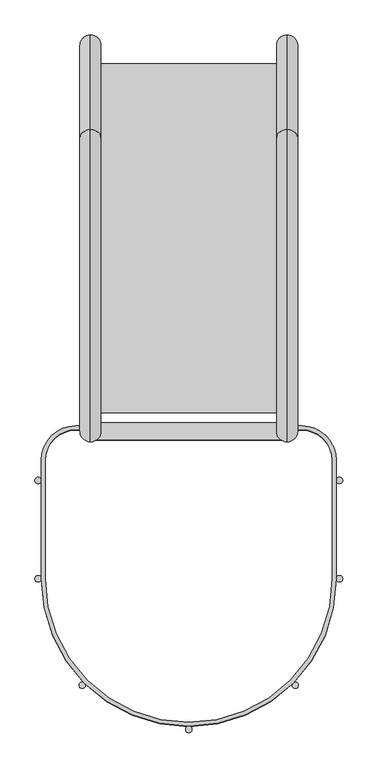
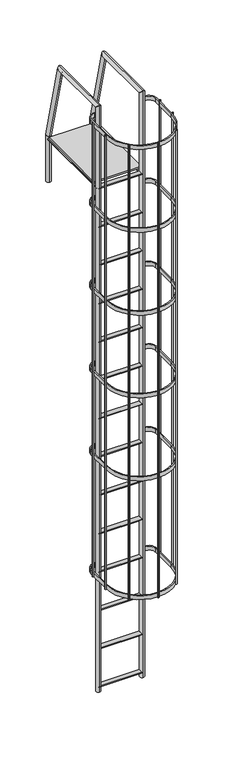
"""IFC4 building model written with IfcOpenShell, lengths in millimetres: proxy geometry, 営_タラップ(屋上・背カゴ付) : タラップ(屋上・背カゴ付)."""

import ifcopenshell
import ifcopenshell.guid

model = None  # the IFC model being written
_history = None  # IfcOwnerHistory: only IFC2X3 demands one
_inside = {}  # id of a spatial element -> (the spatial element, [elements in it])
_under = {}  # id of a project, library or spatial element -> (it, [spatial elements below it])
_declared = {}  # id of a project -> (the project, [libraries it declares])
_typed = {}  # id of a type object -> (the type object, [elements of that type])
_made_of = {}  # id of a material, layer set ... -> (it, [elements and type objects made of it])


def new_model(schema):
    """Start an empty IFC model of exactly this schema.

    Asked for "IFC4X3", IfcOpenShell would pick the latest addendum, in which some entities
    have other attributes; the version numbers below select the first issue.
    IFC2X3 requires an IfcOwnerHistory on every rooted entity: one is made here for all.
    """
    global model, _history
    if schema == "IFC4X3":
        model = ifcopenshell.file(schema_version=(4, 3, 0, 0))
    else:
        model = ifcopenshell.file(schema=schema)
    _inside.clear()
    _under.clear()
    _declared.clear()
    _typed.clear()
    _made_of.clear()
    _history = None
    if model.schema == "IFC2X3":
        org = make("IfcOrganization", Name="unknown")
        user = make(
            "IfcPersonAndOrganization",
            ThePerson=make("IfcPerson", FamilyName="unknown"),
            TheOrganization=org,
        )
        app = make(
            "IfcApplication",
            ApplicationDeveloper=org,
            Version="unknown",
            ApplicationFullName="unknown",
            ApplicationIdentifier="unknown",
        )
        _history = make(
            "IfcOwnerHistory",
            OwningUser=user,
            OwningApplication=app,
            ChangeAction="ADDED",
            CreationDate=0,
        )
    return model


def make(cls, **values):
    """One entity of the class cls with the attributes given. An attribute that is None is left unset."""
    return model.create_entity(
        cls, **{name: value for name, value in values.items() if value is not None}
    )


def rooted(cls, **values):
    """An entity with a GlobalId (a new one), such as an element, a storey or a relation."""
    return make(cls, GlobalId=ifcopenshell.guid.new(), OwnerHistory=_history, **values)


def si_unit(unit_type, name, prefix=None):
    """IfcSIUnit, for example si_unit("LENGTHUNIT", "METRE", prefix="MILLI")."""
    return make("IfcSIUnit", UnitType=unit_type, Prefix=prefix, Name=name)


def assignment(units):
    """IfcUnitAssignment: the units of a project."""
    return None if units is None else make("IfcUnitAssignment", Units=units)


def point(xyz):
    """IfcCartesianPoint."""
    return None if xyz is None else make("IfcCartesianPoint", Coordinates=xyz)


def direction(xyz):
    """IfcDirection."""
    return None if xyz is None else make("IfcDirection", DirectionRatios=xyz)


def frame(location, z_axis=None, x_axis=None):
    """IfcAxis2Placement3D, a coordinate frame: its origin and axes. An axis left out is left unset."""
    return make(
        "IfcAxis2Placement3D",
        Location=point(location),
        Axis=direction(z_axis),
        RefDirection=direction(x_axis),
    )


def frame_2d(location, x_axis=None):
    """IfcAxis2Placement2D, a coordinate frame in the plane: its origin and x axis."""
    return make(
        "IfcAxis2Placement2D", Location=point(location), RefDirection=direction(x_axis)
    )


def origin():
    """The frame at (0, 0, 0) with its axes left unset."""
    return frame((0.0, 0.0, 0.0))


def place(relative_to, where):
    """IfcLocalPlacement: puts the frame where relative to a parent placement (None: the world)."""
    return make(
        "IfcLocalPlacement", PlacementRelTo=relative_to, RelativePlacement=where
    )


def context(
    kind, dimensions, precision=None, world=None, true_north=None, identifier=None
):
    """IfcGeometricRepresentationContext, for example the 3D "Model" context."""
    return make(
        "IfcGeometricRepresentationContext",
        ContextIdentifier=identifier,
        ContextType=kind,
        CoordinateSpaceDimension=dimensions,
        Precision=precision,
        WorldCoordinateSystem=world,
        TrueNorth=true_north,
    )


def project(units=None, contexts=None):
    """IfcProject with its units and contexts."""
    return rooted(
        "IfcProject",
        Name="project",
        RepresentationContexts=contexts,
        UnitsInContext=assignment(units),
    )


def spatial(cls, under=None, at=None, **own):
    """A site, building, storey or space (cls), placed at a placement, below another one or the project."""
    s = rooted(cls, ObjectPlacement=at, **own)
    if under is not None:
        _under.setdefault(under.id(), (under, []))[1].append(s)
    return s


def polyline(points):
    """IfcPolyline through the points."""
    return make("IfcPolyline", Points=[point(p) for p in points])


def circle_curve(where, radius):
    """IfcCircle in the frame where."""
    return make("IfcCircle", Position=where, Radius=radius)


def ellipse_curve(where, semi_axis1, semi_axis2):
    """IfcEllipse in the frame where."""
    return make(
        "IfcEllipse", Position=where, SemiAxis1=semi_axis1, SemiAxis2=semi_axis2
    )


def trimmed(basis, trim1, trim2, sense, master):
    """IfcTrimmedCurve: the piece of a basis curve between two trims."""
    return make(
        "IfcTrimmedCurve",
        BasisCurve=basis,
        Trim1=trim1,
        Trim2=trim2,
        SenseAgreement=sense,
        MasterRepresentation=master,
    )


def segment(curve, same_sense, transition):
    """IfcCompositeCurveSegment."""
    return make(
        "IfcCompositeCurveSegment",
        Transition=transition,
        SameSense=same_sense,
        ParentCurve=curve,
    )


def composite_curve(segments, self_intersect=None):
    """IfcCompositeCurve: segments joined end to end."""
    return make("IfcCompositeCurve", Segments=segments, SelfIntersect=self_intersect)


def outline(outer, holes=None, kind="AREA"):
    """IfcArbitraryClosedProfileDef: a profile drawn as a closed curve; with holes, ...WithVoids."""
    if holes is None:
        return make("IfcArbitraryClosedProfileDef", ProfileType=kind, OuterCurve=outer)
    return make(
        "IfcArbitraryProfileDefWithVoids",
        ProfileType=kind,
        OuterCurve=outer,
        InnerCurves=holes,
    )


def extrude(swept, where, along, depth):
    """IfcExtrudedAreaSolid: the profile swept, set in the frame where, extruded along a direction by depth."""
    return make(
        "IfcExtrudedAreaSolid",
        SweptArea=swept,
        Position=where,
        ExtrudedDirection=direction(along),
        Depth=depth,
    )


def shape(context_of_items, identifier, shape_type, items):
    """IfcShapeRepresentation: the items that make up one representation, for example the "Body"."""
    return make(
        "IfcShapeRepresentation",
        ContextOfItems=context_of_items,
        RepresentationIdentifier=identifier,
        RepresentationType=shape_type,
        Items=items,
    )


def source(mapping_origin, context_of_items, identifier, shape_type, items):
    """IfcRepresentationMap: a shape defined once, which mapped items show again and again."""
    return make(
        "IfcRepresentationMap",
        MappingOrigin=mapping_origin,
        MappedRepresentation=shape(context_of_items, identifier, shape_type, items),
    )


def transform(
    local_origin,
    x_axis=None,
    y_axis=None,
    z_axis=None,
    scale=None,
    scale2=None,
    scale3=None,
    uniform=True,
):
    """IfcCartesianTransformationOperator3D, or its non-uniform kind. x_axis, y_axis, z_axis: its Axis1, 2, 3."""
    if uniform:
        return make(
            "IfcCartesianTransformationOperator3D",
            Axis1=direction(x_axis),
            Axis2=direction(y_axis),
            LocalOrigin=point(local_origin),
            Scale=scale,
            Axis3=direction(z_axis),
        )
    return make(
        "IfcCartesianTransformationOperator3DnonUniform",
        Axis1=direction(x_axis),
        Axis2=direction(y_axis),
        LocalOrigin=point(local_origin),
        Scale=scale,
        Axis3=direction(z_axis),
        Scale2=scale2,
        Scale3=scale3,
    )


def mapped(mapping_source, mapping_target):
    """IfcMappedItem: shows the shape of a source again, moved by a transform."""
    return make(
        "IfcMappedItem", MappingSource=mapping_source, MappingTarget=mapping_target
    )


def made_of(thing, what):
    """Note that an element or type object is made of a material, layer set ...; save() writes the relation."""
    if what is not None:
        _made_of.setdefault(what.id(), (what, []))[1].append(thing)
    return thing


def element(
    cls,
    number,
    at=None,
    inside=None,
    cuts=None,
    type_object=None,
    material=None,
    context=None,
    identifier="Body",
    shape_type=None,
    held_by="IfcProductDefinitionShape",
    body=None,
    shapes=None,
    **own,
):
    """One element of the class cls, such as IfcWall. Its Tag is "e" and its number.

    at: its placement. inside: the storey or other place that contains it. cuts: it is an
    opening in that element (IfcRelVoidsElement). A single representation is given by context,
    identifier, shape_type and body (its items); several are given by shapes. held_by: the class
    of the entity that holds the representations. save() writes the other relations.
    """
    e = rooted(cls, Tag="e%d" % number, ObjectPlacement=at, **own)
    if body is not None:
        shapes = [shape(context, identifier, shape_type, body)]
    if shapes is not None:
        e.Representation = make(held_by, Representations=shapes)
    if inside is not None:
        _inside.setdefault(inside.id(), (inside, []))[1].append(e)
    if cuts is not None:
        rooted(
            "IfcRelVoidsElement", RelatingBuildingElement=cuts, RelatedOpeningElement=e
        )
    if type_object is not None:
        _typed.setdefault(type_object.id(), (type_object, []))[1].append(e)
    return made_of(e, material)


def aggregate(whole, parts):
    """IfcRelAggregates: a whole, such as a stair, and the parts it consists of."""
    return rooted("IfcRelAggregates", RelatingObject=whole, RelatedObjects=parts)


def save(model, path):
    """Write the relations noted so far, then the file.

    IfcRelAggregates (storeys below a building ...), IfcRelContainedInSpatialStructure (elements
    in a storey), IfcRelDefinesByType, IfcRelAssociatesMaterial and IfcRelDeclares: one each for
    every whole, place, type object, material and project.
    """
    for whole, parts in _under.values():
        aggregate(whole, parts)
    for where, things in _inside.values():
        rooted(
            "IfcRelContainedInSpatialStructure",
            RelatedElements=things,
            RelatingStructure=where,
        )
    for kind, things in _typed.values():
        rooted("IfcRelDefinesByType", RelatedObjects=things, RelatingType=kind)
    for what, things in _made_of.values():
        rooted("IfcRelAssociatesMaterial", RelatedObjects=things, RelatingMaterial=what)
    for by, libraries in _declared.values():
        rooted("IfcRelDeclares", RelatingContext=by, RelatedDefinitions=libraries)
    model.write(path)


def plane_surface(at):
    """IfcPlane: the flat surface through the origin of the frame at, square to its z axis."""
    return make("IfcPlane", Position=at)


def cylinder_surface(at, radius):
    """IfcCylindricalSurface: all points at the distance radius from the z axis of the frame at."""
    return make("IfcCylindricalSurface", Position=at, Radius=radius)


def advanced_brep(points, edges, surfaces, faces):
    """IfcAdvancedBrep: a solid bounded by faces that lie on surfaces and meet in shared edges.

    An edge is (start, end): straight between two places in points (the first is 0);
    or (start, end, curve); or (start, end, curve, False) where it runs against its curve.
    A face is (place in surfaces, loops), or (place, loops, False) where it looks against
    its surface's normal. A loop lists edges by number (the first is 1), with a minus sign
    where the edge is run from its end to its start. The first loop is the outer one.
    """
    corners = [point(p) for p in points]
    vertices = [make("IfcVertexPoint", VertexGeometry=c) for c in corners]
    made = []
    for start, end, *more in edges:
        made.append(
            make(
                "IfcEdgeCurve",
                EdgeStart=vertices[start],
                EdgeEnd=vertices[end],
                EdgeGeometry=more[0] if more else make("IfcPolyline", Points=[corners[start], corners[end]]),
                SameSense=more[1] if len(more) > 1 else True,
            )
        )
    hull = []
    for where, loops, *sense in faces:
        bounds = []
        for j, loop in enumerate(loops):
            ring = [make("IfcOrientedEdge", EdgeElement=made[abs(k) - 1], Orientation=k > 0) for k in loop]
            bounds.append(
                make(
                    "IfcFaceOuterBound" if j == 0 else "IfcFaceBound",
                    Bound=make("IfcEdgeLoop", EdgeList=ring),
                    Orientation=True,
                )
            )
        hull.append(make("IfcAdvancedFace", Bounds=bounds, FaceSurface=surfaces[where], SameSense=sense[0] if sense else True))
    return make("IfcAdvancedBrep", Outer=make("IfcClosedShell", CfsFaces=hull))


def generic_models_01cd3eca(model_context):
    return source(origin(), model_context, "Body", "SolidModel", [
        extrude(outline(composite_curve([segment(trimmed(circle_curve(frame_2d((-183.0, 396.4615385)), 17.0), [point((-200.0, 396.4615385))], [point((-166.0, 396.4615385))], False, "CARTESIAN"), True, "CONTINUOUS"), segment(trimmed(circle_curve(frame_2d((-183.0, 396.4615385)), 17.0), [point((-166.0, 396.4615385))], [point((-200.0, 396.4615385))], False, "CARTESIAN"), True, "CONTINUOUS")], self_intersect=False)), frame((-200.0, 0.0, 0.0), z_axis=(1.0, 0.0, 0.0), x_axis=(0.0, 1.0, 0.0)), (0.0, 0.0, 1.0), 400.0),
        extrude(outline(composite_curve([segment(trimmed(circle_curve(frame_2d((-183.0, 25.9230769)), 17.0), [point((-200.0, 25.9230769))], [point((-166.0, 25.9230769))], False, "CARTESIAN"), True, "CONTINUOUS"), segment(trimmed(circle_curve(frame_2d((-183.0, 25.9230769)), 17.0), [point((-166.0, 25.9230769))], [point((-200.0, 25.9230769))], False, "CARTESIAN"), True, "CONTINUOUS")], self_intersect=False)), frame((-200.0, 0.0, 0.0), z_axis=(1.0, 0.0, 0.0), x_axis=(0.0, 1.0, 0.0)), (0.0, 0.0, 1.0), 400.0),
        extrude(outline(composite_curve([segment(trimmed(circle_curve(frame_2d((-183.0, -344.6153846)), 17.0), [point((-200.0, -344.6153846))], [point((-166.0, -344.6153846))], False, "CARTESIAN"), True, "CONTINUOUS"), segment(trimmed(circle_curve(frame_2d((-183.0, -344.6153846)), 17.0), [point((-166.0, -344.6153846))], [point((-200.0, -344.6153846))], False, "CARTESIAN"), True, "CONTINUOUS")], self_intersect=False)), frame((-200.0, 0.0, 0.0), z_axis=(1.0, 0.0, 0.0), x_axis=(0.0, 1.0, 0.0)), (0.0, 0.0, 1.0), 400.0),
        extrude(outline(composite_curve([segment(trimmed(circle_curve(frame_2d((-183.0, -715.1538462)), 17.0), [point((-200.0, -715.1538462))], [point((-166.0, -715.1538462))], False, "CARTESIAN"), True, "CONTINUOUS"), segment(trimmed(circle_curve(frame_2d((-183.0, -715.1538462)), 17.0), [point((-166.0, -715.1538462))], [point((-200.0, -715.1538462))], False, "CARTESIAN"), True, "CONTINUOUS")], self_intersect=False)), frame((-200.0, 0.0, 0.0), z_axis=(1.0, 0.0, 0.0), x_axis=(0.0, 1.0, 0.0)), (0.0, 0.0, 1.0), 400.0),
        extrude(outline(composite_curve([segment(trimmed(circle_curve(frame_2d((-183.0, -1085.6923077)), 17.0), [point((-200.0, -1085.6923077))], [point((-166.0, -1085.6923077))], False, "CARTESIAN"), True, "CONTINUOUS"), segment(trimmed(circle_curve(frame_2d((-183.0, -1085.6923077)), 17.0), [point((-166.0, -1085.6923077))], [point((-200.0, -1085.6923077))], False, "CARTESIAN"), True, "CONTINUOUS")], self_intersect=False)), frame((-200.0, 0.0, 0.0), z_axis=(1.0, 0.0, 0.0), x_axis=(0.0, 1.0, 0.0)), (0.0, 0.0, 1.0), 400.0),
        extrude(outline(composite_curve([segment(trimmed(circle_curve(frame_2d((-183.0, -1456.2307692)), 17.0), [point((-200.0, -1456.2307692))], [point((-166.0, -1456.2307692))], False, "CARTESIAN"), True, "CONTINUOUS"), segment(trimmed(circle_curve(frame_2d((-183.0, -1456.2307692)), 17.0), [point((-166.0, -1456.2307692))], [point((-200.0, -1456.2307692))], False, "CARTESIAN"), True, "CONTINUOUS")], self_intersect=False)), frame((-200.0, 0.0, 0.0), z_axis=(1.0, 0.0, 0.0), x_axis=(0.0, 1.0, 0.0)), (0.0, 0.0, 1.0), 400.0),
        extrude(outline(composite_curve([segment(trimmed(circle_curve(frame_2d((-183.0, -1826.7692308)), 17.0), [point((-200.0, -1826.7692308))], [point((-166.0, -1826.7692308))], False, "CARTESIAN"), True, "CONTINUOUS"), segment(trimmed(circle_curve(frame_2d((-183.0, -1826.7692308)), 17.0), [point((-166.0, -1826.7692308))], [point((-200.0, -1826.7692308))], False, "CARTESIAN"), True, "CONTINUOUS")], self_intersect=False)), frame((-200.0, 0.0, 0.0), z_axis=(1.0, 0.0, 0.0), x_axis=(0.0, 1.0, 0.0)), (0.0, 0.0, 1.0), 400.0),
        extrude(outline(composite_curve([segment(trimmed(circle_curve(frame_2d((-183.0, -2197.3076923)), 17.0), [point((-200.0, -2197.3076923))], [point((-166.0, -2197.3076923))], False, "CARTESIAN"), True, "CONTINUOUS"), segment(trimmed(circle_curve(frame_2d((-183.0, -2197.3076923)), 17.0), [point((-166.0, -2197.3076923))], [point((-200.0, -2197.3076923))], False, "CARTESIAN"), True, "CONTINUOUS")], self_intersect=False)), frame((-200.0, 0.0, 0.0), z_axis=(1.0, 0.0, 0.0), x_axis=(0.0, 1.0, 0.0)), (0.0, 0.0, 1.0), 400.0),
        extrude(outline(composite_curve([segment(trimmed(circle_curve(frame_2d((-183.0, -2567.8461538)), 17.0), [point((-200.0, -2567.8461538))], [point((-166.0, -2567.8461538))], False, "CARTESIAN"), True, "CONTINUOUS"), segment(trimmed(circle_curve(frame_2d((-183.0, -2567.8461538)), 17.0), [point((-166.0, -2567.8461538))], [point((-200.0, -2567.8461538))], False, "CARTESIAN"), True, "CONTINUOUS")], self_intersect=False)), frame((-200.0, 0.0, 0.0), z_axis=(1.0, 0.0, 0.0), x_axis=(0.0, 1.0, 0.0)), (0.0, 0.0, 1.0), 400.0),
        extrude(outline(composite_curve([segment(trimmed(circle_curve(frame_2d((-183.0, -2938.3846154)), 17.0), [point((-200.0, -2938.3846154))], [point((-166.0, -2938.3846154))], False, "CARTESIAN"), True, "CONTINUOUS"), segment(trimmed(circle_curve(frame_2d((-183.0, -2938.3846154)), 17.0), [point((-166.0, -2938.3846154))], [point((-200.0, -2938.3846154))], False, "CARTESIAN"), True, "CONTINUOUS")], self_intersect=False)), frame((-200.0, 0.0, 0.0), z_axis=(1.0, 0.0, 0.0), x_axis=(0.0, 1.0, 0.0)), (0.0, 0.0, 1.0), 400.0),
        extrude(outline(composite_curve([segment(trimmed(circle_curve(frame_2d((-183.0, -3308.9230769)), 17.0), [point((-200.0, -3308.9230769))], [point((-166.0, -3308.9230769))], False, "CARTESIAN"), True, "CONTINUOUS"), segment(trimmed(circle_curve(frame_2d((-183.0, -3308.9230769)), 17.0), [point((-166.0, -3308.9230769))], [point((-200.0, -3308.9230769))], False, "CARTESIAN"), True, "CONTINUOUS")], self_intersect=False)), frame((-200.0, 0.0, 0.0), z_axis=(1.0, 0.0, 0.0), x_axis=(0.0, 1.0, 0.0)), (0.0, 0.0, 1.0), 400.0),
        extrude(outline(composite_curve([segment(trimmed(circle_curve(frame_2d((-183.0, -3679.4615385)), 17.0), [point((-200.0, -3679.4615385))], [point((-166.0, -3679.4615385))], False, "CARTESIAN"), True, "CONTINUOUS"), segment(trimmed(circle_curve(frame_2d((-183.0, -3679.4615385)), 17.0), [point((-166.0, -3679.4615385))], [point((-200.0, -3679.4615385))], False, "CARTESIAN"), True, "CONTINUOUS")], self_intersect=False)), frame((-200.0, 0.0, 0.0), z_axis=(1.0, 0.0, 0.0), x_axis=(0.0, 1.0, 0.0)), (0.0, 0.0, 1.0), 400.0),
        extrude(outline(composite_curve([segment(trimmed(circle_curve(frame_2d((-183.0, 767.0)), 17.0), [point((-200.0, 767.0))], [point((-166.0, 767.0))], False, "CARTESIAN"), True, "CONTINUOUS"), segment(trimmed(circle_curve(frame_2d((-183.0, 767.0)), 17.0), [point((-166.0, 767.0))], [point((-200.0, 767.0))], False, "CARTESIAN"), True, "CONTINUOUS")], self_intersect=False)), frame((-200.0, 0.0, 0.0), z_axis=(1.0, 0.0, 0.0), x_axis=(0.0, 1.0, 0.0)), (0.0, 0.0, 1.0), 400.0),
        extrude(outline(composite_curve([segment(polyline([(-200.0, -172.0), (-200.0, -180.0), (-230.0, -180.0)]), True, "CONTINUOUS"), segment(trimmed(circle_curve(frame_2d((-230.0, -242.0)), 62.0), [point((-230.0, -180.0))], [point((-292.0, -242.0))], True, "CARTESIAN"), True, "CONTINUOUS"), segment(polyline([(-292.0, -242.0), (-292.0, -483.0)]), True, "CONTINUOUS"), segment(trimmed(circle_curve(frame_2d((0.0, -483.0)), 292.0), [point((-292.0, -483.0))], [point((0.0, -775.0))], True, "CARTESIAN"), True, "CONTINUOUS"), segment(trimmed(circle_curve(frame_2d((0.0, -483.0)), 292.0), [point((0.0, -775.0))], [point((292.0, -483.0))], True, "CARTESIAN"), True, "CONTINUOUS"), segment(polyline([(292.0, -483.0), (292.0, -242.0)]), True, "CONTINUOUS"), segment(trimmed(circle_curve(frame_2d((230.0, -242.0)), 62.0), [point((292.0, -242.0))], [point((230.0, -180.0))], True, "CARTESIAN"), True, "CONTINUOUS"), segment(polyline([(230.0, -180.0), (200.0, -180.0), (200.0, -172.0), (230.0, -172.0)]), True, "CONTINUOUS"), segment(trimmed(circle_curve(frame_2d((230.0, -242.0)), 70.0), [point((230.0, -172.0))], [point((300.0, -242.0))], False, "CARTESIAN"), True, "CONTINUOUS"), segment(polyline([(300.0, -242.0), (300.0, -483.0)]), True, "CONTINUOUS"), segment(trimmed(circle_curve(frame_2d((0.0, -483.0)), 300.0), [point((300.0, -483.0))], [point((0.0, -783.0))], False, "CARTESIAN"), True, "CONTINUOUS"), segment(trimmed(circle_curve(frame_2d((0.0, -483.0)), 300.0), [point((0.0, -783.0))], [point((-300.0, -483.0))], False, "CARTESIAN"), True, "CONTINUOUS"), segment(polyline([(-300.0, -483.0), (-300.0, -242.0)]), True, "CONTINUOUS"), segment(trimmed(circle_curve(frame_2d((-230.0, -242.0)), 70.0), [point((-300.0, -242.0))], [point((-230.0, -172.0))], False, "CARTESIAN"), True, "CONTINUOUS"), segment(polyline([(-230.0, -172.0), (-200.0, -172.0)]), True, "CONTINUOUS")], self_intersect=False)), frame((0.0, 0.0, -1751.0), z_axis=(0.0, 0.0, 1.0), x_axis=(1.0, 0.0, 0.0)), (0.0, 0.0, 1.0), 38.0),
        extrude(outline(composite_curve([segment(polyline([(-200.0, -172.0), (-200.0, -180.0), (-230.0, -180.0)]), True, "CONTINUOUS"), segment(trimmed(circle_curve(frame_2d((-230.0, -242.0)), 62.0), [point((-230.0, -180.0))], [point((-292.0, -242.0))], True, "CARTESIAN"), True, "CONTINUOUS"), segment(polyline([(-292.0, -242.0), (-292.0, -483.0)]), True, "CONTINUOUS"), segment(trimmed(circle_curve(frame_2d((0.0, -483.0)), 292.0), [point((-292.0, -483.0))], [point((0.0, -775.0))], True, "CARTESIAN"), True, "CONTINUOUS"), segment(trimmed(circle_curve(frame_2d((0.0, -483.0)), 292.0), [point((0.0, -775.0))], [point((292.0, -483.0))], True, "CARTESIAN"), True, "CONTINUOUS"), segment(polyline([(292.0, -483.0), (292.0, -242.0)]), True, "CONTINUOUS"), segment(trimmed(circle_curve(frame_2d((230.0, -242.0)), 62.0), [point((292.0, -242.0))], [point((230.0, -180.0))], True, "CARTESIAN"), True, "CONTINUOUS"), segment(polyline([(230.0, -180.0), (200.0, -180.0), (200.0, -172.0), (230.0, -172.0)]), True, "CONTINUOUS"), segment(trimmed(circle_curve(frame_2d((230.0, -242.0)), 70.0), [point((230.0, -172.0))], [point((300.0, -242.0))], False, "CARTESIAN"), True, "CONTINUOUS"), segment(polyline([(300.0, -242.0), (300.0, -483.0)]), True, "CONTINUOUS"), segment(trimmed(circle_curve(frame_2d((0.0, -483.0)), 300.0), [point((300.0, -483.0))], [point((0.0, -783.0))], False, "CARTESIAN"), True, "CONTINUOUS"), segment(trimmed(circle_curve(frame_2d((0.0, -483.0)), 300.0), [point((0.0, -783.0))], [point((-300.0, -483.0))], False, "CARTESIAN"), True, "CONTINUOUS"), segment(polyline([(-300.0, -483.0), (-300.0, -242.0)]), True, "CONTINUOUS"), segment(trimmed(circle_curve(frame_2d((-230.0, -242.0)), 70.0), [point((-300.0, -242.0))], [point((-230.0, -172.0))], False, "CARTESIAN"), True, "CONTINUOUS"), segment(polyline([(-230.0, -172.0), (-200.0, -172.0)]), True, "CONTINUOUS")], self_intersect=False)), frame((0.0, 0.0, -951.0), z_axis=(0.0, 0.0, 1.0), x_axis=(1.0, 0.0, 0.0)), (0.0, 0.0, 1.0), 38.0),
        extrude(outline(composite_curve([segment(polyline([(-200.0, -172.0), (-200.0, -180.0), (-230.0, -180.0)]), True, "CONTINUOUS"), segment(trimmed(circle_curve(frame_2d((-230.0, -242.0)), 62.0), [point((-230.0, -180.0))], [point((-292.0, -242.0))], True, "CARTESIAN"), True, "CONTINUOUS"), segment(polyline([(-292.0, -242.0), (-292.0, -483.0)]), True, "CONTINUOUS"), segment(trimmed(circle_curve(frame_2d((0.0, -483.0)), 292.0), [point((-292.0, -483.0))], [point((0.0, -775.0))], True, "CARTESIAN"), True, "CONTINUOUS"), segment(trimmed(circle_curve(frame_2d((0.0, -483.0)), 292.0), [point((0.0, -775.0))], [point((292.0, -483.0))], True, "CARTESIAN"), True, "CONTINUOUS"), segment(polyline([(292.0, -483.0), (292.0, -242.0)]), True, "CONTINUOUS"), segment(trimmed(circle_curve(frame_2d((230.0, -242.0)), 62.0), [point((292.0, -242.0))], [point((230.0, -180.0))], True, "CARTESIAN"), True, "CONTINUOUS"), segment(polyline([(230.0, -180.0), (200.0, -180.0), (200.0, -172.0), (230.0, -172.0)]), True, "CONTINUOUS"), segment(trimmed(circle_curve(frame_2d((230.0, -242.0)), 70.0), [point((230.0, -172.0))], [point((300.0, -242.0))], False, "CARTESIAN"), True, "CONTINUOUS"), segment(polyline([(300.0, -242.0), (300.0, -483.0)]), True, "CONTINUOUS"), segment(trimmed(circle_curve(frame_2d((0.0, -483.0)), 300.0), [point((300.0, -483.0))], [point((0.0, -783.0))], False, "CARTESIAN"), True, "CONTINUOUS"), segment(trimmed(circle_curve(frame_2d((0.0, -483.0)), 300.0), [point((0.0, -783.0))], [point((-300.0, -483.0))], False, "CARTESIAN"), True, "CONTINUOUS"), segment(polyline([(-300.0, -483.0), (-300.0, -242.0)]), True, "CONTINUOUS"), segment(trimmed(circle_curve(frame_2d((-230.0, -242.0)), 70.0), [point((-300.0, -242.0))], [point((-230.0, -172.0))], False, "CARTESIAN"), True, "CONTINUOUS"), segment(polyline([(-230.0, -172.0), (-200.0, -172.0)]), True, "CONTINUOUS")], self_intersect=False)), frame((0.0, 0.0, -151.0), z_axis=(0.0, 0.0, 1.0), x_axis=(1.0, 0.0, 0.0)), (0.0, 0.0, 1.0), 38.0),
        extrude(outline(composite_curve([segment(polyline([(-200.0, -172.0), (-200.0, -180.0), (-230.0, -180.0)]), True, "CONTINUOUS"), segment(trimmed(circle_curve(frame_2d((-230.0, -242.0)), 62.0), [point((-230.0, -180.0))], [point((-292.0, -242.0))], True, "CARTESIAN"), True, "CONTINUOUS"), segment(polyline([(-292.0, -242.0), (-292.0, -483.0)]), True, "CONTINUOUS"), segment(trimmed(circle_curve(frame_2d((0.0, -483.0)), 292.0), [point((-292.0, -483.0))], [point((0.0, -775.0))], True, "CARTESIAN"), True, "CONTINUOUS"), segment(trimmed(circle_curve(frame_2d((0.0, -483.0)), 292.0), [point((0.0, -775.0))], [point((292.0, -483.0))], True, "CARTESIAN"), True, "CONTINUOUS"), segment(polyline([(292.0, -483.0), (292.0, -242.0)]), True, "CONTINUOUS"), segment(trimmed(circle_curve(frame_2d((230.0, -242.0)), 62.0), [point((292.0, -242.0))], [point((230.0, -180.0))], True, "CARTESIAN"), True, "CONTINUOUS"), segment(polyline([(230.0, -180.0), (200.0, -180.0), (200.0, -172.0), (230.0, -172.0)]), True, "CONTINUOUS"), segment(trimmed(circle_curve(frame_2d((230.0, -242.0)), 70.0), [point((230.0, -172.0))], [point((300.0, -242.0))], False, "CARTESIAN"), True, "CONTINUOUS"), segment(polyline([(300.0, -242.0), (300.0, -483.0)]), True, "CONTINUOUS"), segment(trimmed(circle_curve(frame_2d((0.0, -483.0)), 300.0), [point((300.0, -483.0))], [point((0.0, -783.0))], False, "CARTESIAN"), True, "CONTINUOUS"), segment(trimmed(circle_curve(frame_2d((0.0, -483.0)), 300.0), [point((0.0, -783.0))], [point((-300.0, -483.0))], False, "CARTESIAN"), True, "CONTINUOUS"), segment(polyline([(-300.0, -483.0), (-300.0, -242.0)]), True, "CONTINUOUS"), segment(trimmed(circle_curve(frame_2d((-230.0, -242.0)), 70.0), [point((-300.0, -242.0))], [point((-230.0, -172.0))], False, "CARTESIAN"), True, "CONTINUOUS"), segment(polyline([(-230.0, -172.0), (-200.0, -172.0)]), True, "CONTINUOUS")], self_intersect=False)), frame((0.0, 0.0, 649.0), z_axis=(0.0, 0.0, 1.0), x_axis=(1.0, 0.0, 0.0)), (0.0, 0.0, 1.0), 38.0),
        extrude(outline(composite_curve([segment(polyline([(-200.0, -172.0), (-200.0, -180.0), (-230.0, -180.0)]), True, "CONTINUOUS"), segment(trimmed(circle_curve(frame_2d((-230.0, -242.0)), 62.0), [point((-230.0, -180.0))], [point((-292.0, -242.0))], True, "CARTESIAN"), True, "CONTINUOUS"), segment(polyline([(-292.0, -242.0), (-292.0, -483.0)]), True, "CONTINUOUS"), segment(trimmed(circle_curve(frame_2d((0.0, -483.0)), 292.0), [point((-292.0, -483.0))], [point((0.0, -775.0))], True, "CARTESIAN"), True, "CONTINUOUS"), segment(trimmed(circle_curve(frame_2d((0.0, -483.0)), 292.0), [point((0.0, -775.0))], [point((292.0, -483.0))], True, "CARTESIAN"), True, "CONTINUOUS"), segment(polyline([(292.0, -483.0), (292.0, -242.0)]), True, "CONTINUOUS"), segment(trimmed(circle_curve(frame_2d((230.0, -242.0)), 62.0), [point((292.0, -242.0))], [point((230.0, -180.0))], True, "CARTESIAN"), True, "CONTINUOUS"), segment(polyline([(230.0, -180.0), (200.0, -180.0), (200.0, -172.0), (230.0, -172.0)]), True, "CONTINUOUS"), segment(trimmed(circle_curve(frame_2d((230.0, -242.0)), 70.0), [point((230.0, -172.0))], [point((300.0, -242.0))], False, "CARTESIAN"), True, "CONTINUOUS"), segment(polyline([(300.0, -242.0), (300.0, -483.0)]), True, "CONTINUOUS"), segment(trimmed(circle_curve(frame_2d((0.0, -483.0)), 300.0), [point((300.0, -483.0))], [point((0.0, -783.0))], False, "CARTESIAN"), True, "CONTINUOUS"), segment(trimmed(circle_curve(frame_2d((0.0, -483.0)), 300.0), [point((0.0, -783.0))], [point((-300.0, -483.0))], False, "CARTESIAN"), True, "CONTINUOUS"), segment(polyline([(-300.0, -483.0), (-300.0, -242.0)]), True, "CONTINUOUS"), segment(trimmed(circle_curve(frame_2d((-230.0, -242.0)), 70.0), [point((-300.0, -242.0))], [point((-230.0, -172.0))], False, "CARTESIAN"), True, "CONTINUOUS"), segment(polyline([(-230.0, -172.0), (-200.0, -172.0)]), True, "CONTINUOUS")], self_intersect=False)), frame((0.0, 0.0, -2900.0), z_axis=(0.0, 0.0, 1.0), x_axis=(1.0, 0.0, 0.0)), (0.0, 0.0, 1.0), 38.0),
        extrude(outline(composite_curve([segment(polyline([(-200.0, -172.0), (-200.0, -180.0), (-230.0, -180.0)]), True, "CONTINUOUS"), segment(trimmed(circle_curve(frame_2d((-230.0, -242.0)), 62.0), [point((-230.0, -180.0))], [point((-292.0, -242.0))], True, "CARTESIAN"), True, "CONTINUOUS"), segment(polyline([(-292.0, -242.0), (-292.0, -483.0)]), True, "CONTINUOUS"), segment(trimmed(circle_curve(frame_2d((0.0, -483.0)), 292.0), [point((-292.0, -483.0))], [point((0.0, -775.0))], True, "CARTESIAN"), True, "CONTINUOUS"), segment(trimmed(circle_curve(frame_2d((0.0, -483.0)), 292.0), [point((0.0, -775.0))], [point((292.0, -483.0))], True, "CARTESIAN"), True, "CONTINUOUS"), segment(polyline([(292.0, -483.0), (292.0, -242.0)]), True, "CONTINUOUS"), segment(trimmed(circle_curve(frame_2d((230.0, -242.0)), 62.0), [point((292.0, -242.0))], [point((230.0, -180.0))], True, "CARTESIAN"), True, "CONTINUOUS"), segment(polyline([(230.0, -180.0), (200.0, -180.0), (200.0, -172.0), (230.0, -172.0)]), True, "CONTINUOUS"), segment(trimmed(circle_curve(frame_2d((230.0, -242.0)), 70.0), [point((230.0, -172.0))], [point((300.0, -242.0))], False, "CARTESIAN"), True, "CONTINUOUS"), segment(polyline([(300.0, -242.0), (300.0, -483.0)]), True, "CONTINUOUS"), segment(trimmed(circle_curve(frame_2d((0.0, -483.0)), 300.0), [point((300.0, -483.0))], [point((0.0, -783.0))], False, "CARTESIAN"), True, "CONTINUOUS"), segment(trimmed(circle_curve(frame_2d((0.0, -483.0)), 300.0), [point((0.0, -783.0))], [point((-300.0, -483.0))], False, "CARTESIAN"), True, "CONTINUOUS"), segment(polyline([(-300.0, -483.0), (-300.0, -242.0)]), True, "CONTINUOUS"), segment(trimmed(circle_curve(frame_2d((-230.0, -242.0)), 70.0), [point((-300.0, -242.0))], [point((-230.0, -172.0))], False, "CARTESIAN"), True, "CONTINUOUS"), segment(polyline([(-230.0, -172.0), (-200.0, -172.0)]), True, "CONTINUOUS")], self_intersect=False)), frame((0.0, 0.0, 1449.0), z_axis=(0.0, 0.0, 1.0), x_axis=(1.0, 0.0, 0.0)), (0.0, 0.0, 1.0), 38.0),
        extrude(outline(composite_curve([segment(trimmed(circle_curve(frame_2d((-306.5, -283.0)), 6.5), [point((-313.0, -283.0))], [point((-300.0, -283.0))], False, "CARTESIAN"), True, "CONTINUOUS"), segment(trimmed(circle_curve(frame_2d((-306.5, -283.0)), 6.5), [point((-300.0, -283.0))], [point((-313.0, -283.0))], False, "CARTESIAN"), True, "CONTINUOUS")], self_intersect=False)), frame((0.0, 0.0, -2900.0), z_axis=(0.0, 0.0, 1.0), x_axis=(1.0, 0.0, 0.0)), (0.0, 0.0, 1.0), 4387.0),
        extrude(outline(composite_curve([segment(trimmed(circle_curve(frame_2d((-306.5, -483.0)), 6.5), [point((-313.0, -483.0))], [point((-300.0, -483.0))], False, "CARTESIAN"), True, "CONTINUOUS"), segment(trimmed(circle_curve(frame_2d((-306.5, -483.0)), 6.5), [point((-300.0, -483.0))], [point((-313.0, -483.0))], False, "CARTESIAN"), True, "CONTINUOUS")], self_intersect=False)), frame((0.0, 0.0, -2900.0), z_axis=(0.0, 0.0, 1.0), x_axis=(1.0, 0.0, 0.0)), (0.0, 0.0, 1.0), 4387.0),
        extrude(outline(composite_curve([segment(trimmed(circle_curve(frame_2d((306.5, -283.0)), 6.5), [point((300.0, -283.0))], [point((313.0, -283.0))], False, "CARTESIAN"), True, "CONTINUOUS"), segment(trimmed(circle_curve(frame_2d((306.5, -283.0)), 6.5), [point((313.0, -283.0))], [point((300.0, -283.0))], False, "CARTESIAN"), True, "CONTINUOUS")], self_intersect=False)), frame((0.0, 0.0, -2900.0), z_axis=(0.0, 0.0, 1.0), x_axis=(1.0, 0.0, 0.0)), (0.0, 0.0, 1.0), 4387.0),
        extrude(outline(composite_curve([segment(trimmed(circle_curve(frame_2d((306.5, -483.0)), 6.5), [point((300.0, -483.0))], [point((313.0, -483.0))], False, "CARTESIAN"), True, "CONTINUOUS"), segment(trimmed(circle_curve(frame_2d((306.5, -483.0)), 6.5), [point((313.0, -483.0))], [point((300.0, -483.0))], False, "CARTESIAN"), True, "CONTINUOUS")], self_intersect=False)), frame((0.0, 0.0, -2900.0), z_axis=(0.0, 0.0, 1.0), x_axis=(1.0, 0.0, 0.0)), (0.0, 0.0, 1.0), 4387.0),
        extrude(outline(composite_curve([segment(trimmed(circle_curve(frame_2d((216.7282284, -699.7282284)), 6.5), [point((212.1320344, -695.1320344))], [point((221.3244225, -704.3244225))], False, "CARTESIAN"), True, "CONTINUOUS"), segment(trimmed(circle_curve(frame_2d((216.7282284, -699.7282284)), 6.5), [point((221.3244225, -704.3244225))], [point((212.1320344, -695.1320344))], False, "CARTESIAN"), True, "CONTINUOUS")], self_intersect=False)), frame((0.0, 0.0, -2900.0), z_axis=(0.0, 0.0, 1.0), x_axis=(1.0, 0.0, 0.0)), (0.0, 0.0, 1.0), 4387.0),
        extrude(outline(composite_curve([segment(trimmed(circle_curve(frame_2d((-216.7282284, -699.7282284)), 6.5), [point((-212.1320344, -695.1320344))], [point((-221.3244225, -704.3244225))], False, "CARTESIAN"), True, "CONTINUOUS"), segment(trimmed(circle_curve(frame_2d((-216.7282284, -699.7282284)), 6.5), [point((-221.3244225, -704.3244225))], [point((-212.1320344, -695.1320344))], False, "CARTESIAN"), True, "CONTINUOUS")], self_intersect=False)), frame((0.0, 0.0, -2900.0), z_axis=(0.0, 0.0, 1.0), x_axis=(1.0, 0.0, 0.0)), (0.0, 0.0, 1.0), 4387.0),
        extrude(outline(composite_curve([segment(trimmed(circle_curve(frame_2d((0.0, -789.5)), 6.5), [point((0.0, -783.0))], [point((0.0, -796.0))], False, "CARTESIAN"), True, "CONTINUOUS"), segment(trimmed(circle_curve(frame_2d((0.0, -789.5)), 6.5), [point((0.0, -796.0))], [point((0.0, -783.0))], False, "CARTESIAN"), True, "CONTINUOUS")], self_intersect=False)), frame((0.0, 0.0, -2900.0), z_axis=(0.0, 0.0, 1.0), x_axis=(1.0, 0.0, 0.0)), (0.0, 0.0, 1.0), 4387.0),
        extrude(outline(composite_curve([segment(trimmed(circle_curve(frame_2d((767.0, -200.0)), 17.0), [point((767.0, -183.0))], [point((767.0, -217.0))], False, "CARTESIAN"), True, "CONTINUOUS"), segment(trimmed(circle_curve(frame_2d((767.0, -200.0)), 17.0), [point((767.0, -217.0))], [point((767.0, -183.0))], False, "CARTESIAN"), True, "CONTINUOUS")], self_intersect=False)), frame((0.0, -183.0, 0.0), z_axis=(0.0, 1.0, 0.0), x_axis=(0.0, 0.0, 1.0)), (0.0, 0.0, 1.0), 785.0),
        extrude(outline(composite_curve([segment(trimmed(circle_curve(frame_2d((767.0, 200.0)), 17.0), [point((767.0, 217.0))], [point((767.0, 183.0))], False, "CARTESIAN"), True, "CONTINUOUS"), segment(trimmed(circle_curve(frame_2d((767.0, 200.0)), 17.0), [point((767.0, 183.0))], [point((767.0, 217.0))], False, "CARTESIAN"), True, "CONTINUOUS")], self_intersect=False)), frame((0.0, -183.0, 0.0), z_axis=(0.0, 1.0, 0.0), x_axis=(0.0, 0.0, 1.0)), (0.0, 0.0, 1.0), 785.0),
        extrude(outline(composite_curve([segment(trimmed(circle_curve(frame_2d((-183.0, -4050.0)), 17.0), [point((-200.0, -4050.0))], [point((-166.0, -4050.0))], False, "CARTESIAN"), True, "CONTINUOUS"), segment(trimmed(circle_curve(frame_2d((-183.0, -4050.0)), 17.0), [point((-166.0, -4050.0))], [point((-200.0, -4050.0))], False, "CARTESIAN"), True, "CONTINUOUS")], self_intersect=False)), frame((-200.0, 0.0, 0.0), z_axis=(1.0, 0.0, 0.0), x_axis=(0.0, 1.0, 0.0)), (0.0, 0.0, 1.0), 400.0),
        extrude(outline(polyline([(217.0, -145.65), (-217.0, -145.65), (-217.0, 564.6509622), (217.0, 564.6509622), (217.0, -145.65)])), frame((0.0, 0.0, 784.0), z_axis=(0.0, 0.0, 1.0), x_axis=(1.0, 0.0, 0.0)), (0.0, 0.0, 1.0), 14.0),
        advanced_brep(
        [(-200.0, -161.65, -4100.0), (-200.0, -204.35, -4100.0), (-200.0, -161.65, 1524.3), (-200.0, -204.35, 1567.0), (-200.0, 397.3485027, 1524.3), (-200.0, 430.6514973, 1567.0), (-200.0, 580.65, 794.3602874), (-200.0, 623.35, 799.6397126), (-200.0, 580.65, 350.0), (-200.0, 623.35, 350.0)],
        [
            (0, 1, circle_curve(frame((-200.0, -183.0, -4100.0), z_axis=(0.0, 0.0, -1.0), x_axis=(0.0, -1.0, 0.0)), 21.35)),
            (1, 0, circle_curve(frame((-200.0, -183.0, -4100.0), z_axis=(0.0, 0.0, -1.0), x_axis=(0.0, -1.0, 0.0)), 21.35)),
            (0, 2),
            (2, 3, ellipse_curve(frame((-200.0, -183.0, 1545.65), z_axis=(0.0, -0.7071067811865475, -0.7071067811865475), x_axis=(0.0, 0.7071067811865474, -0.7071067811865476)), 30.1934596, 21.35)),
            (3, 1),
            (3, 2, ellipse_curve(frame((-200.0, -183.0, 1545.65), z_axis=(0.0, -0.7071067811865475, -0.7071067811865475), x_axis=(0.0, 0.7071067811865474, -0.7071067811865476)), 30.1934596, 21.35)),
            (2, 4),
            (4, 5, ellipse_curve(frame((-200.0, 414.0, 1545.65), z_axis=(0.0, -0.7885292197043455, 0.6149972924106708), x_axis=(0.0, -0.6149972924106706, -0.7885292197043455)), 27.0757246, 21.35)),
            (5, 3),
            (5, 4, ellipse_curve(frame((-200.0, 414.0, 1545.65), z_axis=(0.0, -0.7885292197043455, 0.6149972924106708), x_axis=(0.0, -0.6149972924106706, -0.7885292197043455)), 27.0757246, 21.35)),
            (4, 6),
            (6, 7, ellipse_curve(frame((-200.0, 602.0, 797.0), z_axis=(0.0, -0.1227056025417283, 0.992443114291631), x_axis=(0.0, -0.9924431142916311, -0.12270560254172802)), 21.512568, 21.35)),
            (7, 5),
            (7, 6, ellipse_curve(frame((-200.0, 602.0, 797.0), z_axis=(0.0, -0.1227056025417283, 0.992443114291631), x_axis=(0.0, -0.9924431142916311, -0.12270560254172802)), 21.512568, 21.35)),
            (8, 9, circle_curve(frame((-200.0, 602.0, 350.0), z_axis=(0.0, 0.0, -1.0), x_axis=(0.0, 1.0, 0.0)), 21.35)),
            (9, 8, circle_curve(frame((-200.0, 602.0, 350.0), z_axis=(0.0, 0.0, -1.0), x_axis=(0.0, 1.0, 0.0)), 21.35)),
            (6, 8),
            (9, 7),
        ],
        [
            plane_surface(frame((0.0, -183.0, -4100.0), z_axis=(0.0, 0.0, -1.0), x_axis=(1.0, 0.0, 0.0))),
            cylinder_surface(frame((-200.0, -183.0, -4100.0), z_axis=(0.0, 0.0, -1.0), x_axis=(0.0, -1.0, 0.0)), 21.35),
            cylinder_surface(frame((-200.0, -183.0, 1545.65), z_axis=(0.0, -1.0, 0.0), x_axis=(0.0, 0.0, 1.0)), 21.35),
            cylinder_surface(frame((-200.0, 414.0, 1545.65), z_axis=(0.0, -0.24355666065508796, 0.9698866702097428), x_axis=(0.0, 0.9698866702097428, 0.24355666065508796)), 21.35),
            plane_surface(frame((0.0, 602.0, 350.0), z_axis=(0.0, 0.0, -1.0), x_axis=(1.0, 0.0, 0.0))),
            cylinder_surface(frame((-200.0, 602.0, 797.0), z_axis=(0.0, 0.0, 1.0), x_axis=(0.0, 1.0, 0.0)), 21.35),
        ],
        [
            (0, [[1, 2]]),
            (1, [[-1, 3, 4, 5]]),
            (1, [[-2, -5, 6, -3]]),
            (2, [[-4, 7, 8, 9]]),
            (2, [[-6, -9, 10, -7]]),
            (3, [[-8, 11, 12, 13]]),
            (3, [[-10, -13, 14, -11]]),
            (4, [[15, 16]]),
            (5, [[-12, 17, -16, 18]]),
            (5, [[-14, -18, -15, -17]]),
        ],
    ),
        advanced_brep(
        [(200.0, -161.65, -4100.0), (200.0, -204.35, -4100.0), (200.0, -161.65, 1524.3), (200.0, -204.35, 1567.0), (200.0, 397.3485027, 1524.3), (200.0, 430.6514973, 1567.0), (200.0, 580.65, 794.3602874), (200.0, 623.35, 799.6397126), (200.0, 580.65, 350.0), (200.0, 623.35, 350.0)],
        [
            (0, 1, circle_curve(frame((200.0, -183.0, -4100.0), z_axis=(0.0, 0.0, -1.0), x_axis=(0.0, -1.0, 0.0)), 21.35)),
            (1, 0, circle_curve(frame((200.0, -183.0, -4100.0), z_axis=(0.0, 0.0, -1.0), x_axis=(0.0, -1.0, 0.0)), 21.35)),
            (0, 2),
            (2, 3, ellipse_curve(frame((200.0, -183.0, 1545.65), z_axis=(0.0, -0.7071067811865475, -0.7071067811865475), x_axis=(0.0, 0.7071067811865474, -0.7071067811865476)), 30.1934596, 21.35)),
            (3, 1),
            (3, 2, ellipse_curve(frame((200.0, -183.0, 1545.65), z_axis=(0.0, -0.7071067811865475, -0.7071067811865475), x_axis=(0.0, 0.7071067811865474, -0.7071067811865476)), 30.1934596, 21.35)),
            (2, 4),
            (4, 5, ellipse_curve(frame((200.0, 414.0, 1545.65), z_axis=(0.0, -0.7885292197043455, 0.6149972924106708), x_axis=(0.0, -0.6149972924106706, -0.7885292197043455)), 27.0757246, 21.35)),
            (5, 3),
            (5, 4, ellipse_curve(frame((200.0, 414.0, 1545.65), z_axis=(0.0, -0.7885292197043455, 0.6149972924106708), x_axis=(0.0, -0.6149972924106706, -0.7885292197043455)), 27.0757246, 21.35)),
            (4, 6),
            (6, 7, ellipse_curve(frame((200.0, 602.0, 797.0), z_axis=(0.0, -0.1227056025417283, 0.992443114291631), x_axis=(0.0, -0.9924431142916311, -0.12270560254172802)), 21.512568, 21.35)),
            (7, 5),
            (7, 6, ellipse_curve(frame((200.0, 602.0, 797.0), z_axis=(0.0, -0.1227056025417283, 0.992443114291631), x_axis=(0.0, -0.9924431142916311, -0.12270560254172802)), 21.512568, 21.35)),
            (8, 9, circle_curve(frame((200.0, 602.0, 350.0), z_axis=(0.0, 0.0, -1.0), x_axis=(0.0, 1.0, 0.0)), 21.35)),
            (9, 8, circle_curve(frame((200.0, 602.0, 350.0), z_axis=(0.0, 0.0, -1.0), x_axis=(0.0, 1.0, 0.0)), 21.35)),
            (6, 8),
            (9, 7),
        ],
        [
            plane_surface(frame((0.0, -183.0, -4100.0), z_axis=(0.0, 0.0, -1.0), x_axis=(1.0, 0.0, 0.0))),
            cylinder_surface(frame((200.0, -183.0, -4100.0), z_axis=(0.0, 0.0, -1.0), x_axis=(0.0, -1.0, 0.0)), 21.35),
            cylinder_surface(frame((200.0, -183.0, 1545.65), z_axis=(0.0, -1.0, 0.0), x_axis=(0.0, 0.0, 1.0)), 21.35),
            cylinder_surface(frame((200.0, 414.0, 1545.65), z_axis=(0.0, -0.24355666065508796, 0.9698866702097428), x_axis=(0.0, 0.9698866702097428, 0.24355666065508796)), 21.35),
            plane_surface(frame((0.0, 602.0, 350.0), z_axis=(0.0, 0.0, -1.0), x_axis=(1.0, 0.0, 0.0))),
            cylinder_surface(frame((200.0, 602.0, 797.0), z_axis=(0.0, 0.0, 1.0), x_axis=(0.0, 1.0, 0.0)), 21.35),
        ],
        [
            (0, [[1, 2]]),
            (1, [[-1, 3, 4, 5]]),
            (1, [[-2, -5, 6, -3]]),
            (2, [[-4, 7, 8, 9]]),
            (2, [[-6, -9, 10, -7]]),
            (3, [[-8, 11, 12, 13]]),
            (3, [[-10, -13, 14, -11]]),
            (4, [[15, 16]]),
            (5, [[-12, 17, -16, 18]]),
            (5, [[-14, -18, -15, -17]]),
        ],
    ),
    ])


if __name__ == "__main__":
    model = new_model("IFC4")
    model_context = context("Model", 3, world=origin())
    ifc_project = project(units=[si_unit("LENGTHUNIT", "METRE", prefix="MILLI")], contexts=[model_context])
    site = spatial("IfcSite", under=ifc_project)
    building = spatial("IfcBuilding", under=site)
    placement = place(None, origin())
    generic_models_shape = generic_models_01cd3eca(model_context)
    element("IfcBuildingElementProxy", 1, Name="営_タラップ(屋上・背カゴ付) : タラップ(屋上・背カゴ付)", ObjectType="営_タラップ(屋上・背カゴ付) : タラップ(屋上・背カゴ付)", at=placement, inside=building, context=model_context, shape_type="MappedRepresentation", body=[
        mapped(generic_models_shape, transform((0.0, 0.0, 0.0), x_axis=(1.0, 0.0, 0.0), y_axis=(0.0, 1.0, 0.0), z_axis=(0.0, 0.0, 1.0))),
    ])
    save(model, "model.ifc")
